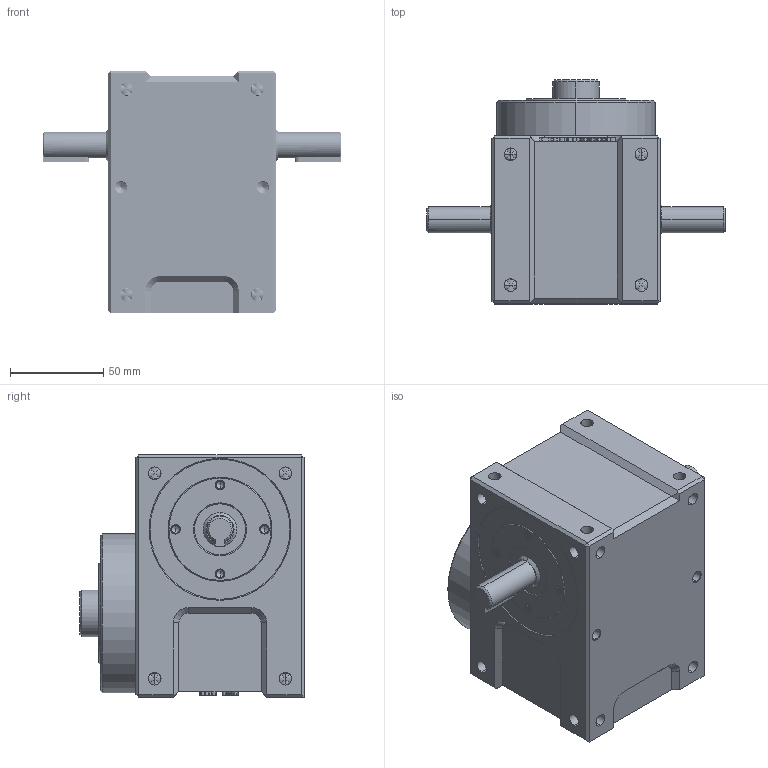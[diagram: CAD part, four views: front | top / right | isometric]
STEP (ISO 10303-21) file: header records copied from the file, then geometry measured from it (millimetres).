
FILE_DESCRIPTION (( 'STEP AP214' ), '1' );
FILE_NAME ('ER-RU45DF英锐凸轮分割器3D壳体和法兰面加销孔标准图纸(电话15062628977)AA.STEP', '2022-08-10T10:51:51', ( '微软用户' ), ( '微软中国' ), 'SwSTEP 2.0', 'SolidWorks 2017', '' );
FILE_SCHEMA (( 'AUTOMOTIVE_DESIGN' ));
Length unit declared in the file: millimetre
Products named in the file (1): ER-RU45DF英锐凸轮分割器3D壳体和法兰面加销孔标准图纸(电话15062628977)AA
Bounding box: 160 x 120 x 130 mm (x, y, z)
Volume: 1119029 mm3; surface area: 85536.2 mm2
Topology: 1 solids, 41 shells, 2254 faces, 5908 edges, 3785 vertices
Faces by surface type: cylinder 1149, plane 475, bspline 464, cone 166
Entity records: 183890 total; most frequent: CARTESIAN_POINT 137076, ORIENTED_EDGE 11648, DIRECTION 6861, EDGE_CURVE 5824, VERTEX_POINT 3785, EDGE_LOOP 2403, AXIS2_PLACEMENT_3D 2363, FACE_OUTER_BOUND 2254
